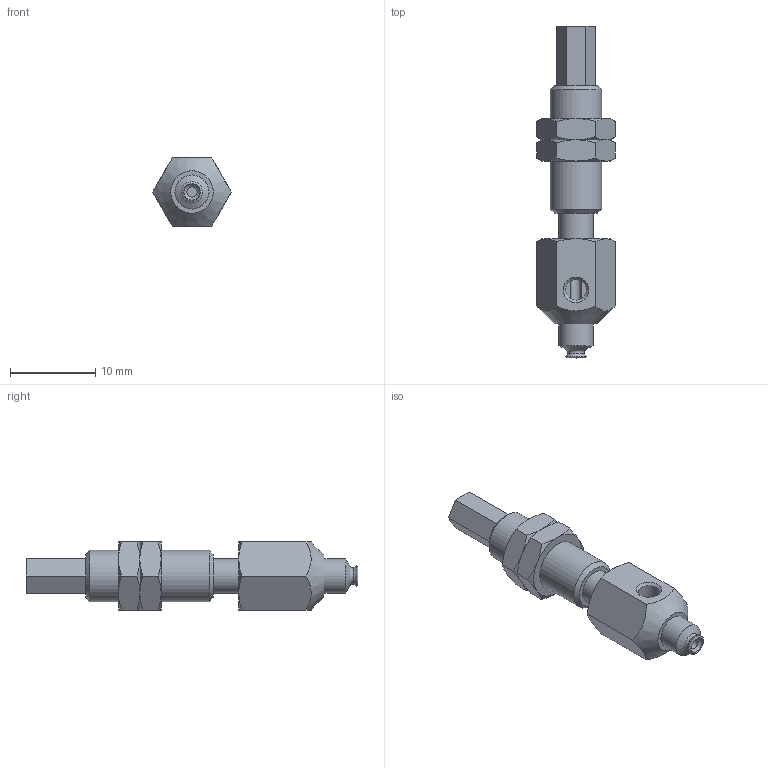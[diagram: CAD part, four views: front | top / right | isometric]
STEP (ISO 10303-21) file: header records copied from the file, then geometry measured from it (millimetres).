
FILE_DESCRIPTION(('STEP AP203'),'1');
FILE_NAME('.stp','2025-04-09T05:06:02',(' '),(' '),'Spatial InterOp 3D',' ',' ');
FILE_SCHEMA(('CONFIG_CONTROL_DESIGN'));
Length unit declared in the file: millimetre
Products named in the file (6): BNABPFYS-2A-3-※; CONNECTOR-2A-3; Nut-2A-3-s; NAPFTS-2A-3-FBODY; NAPFTS-2A-3-MBODY; BPFG-2A-※
Assembly tree (6 placements, depth 2):
  BNABPFYS-2A-3-※
    CONNECTOR-2A-3
    Nut-2A-3-s  x2
    NAPFTS-2A-3-FBODY
    NAPFTS-2A-3-MBODY
    BPFG-2A-※
Bounding box: 9.24 x 39 x 8 mm (x, y, z)
Volume: 1222.3 mm3; surface area: 1839.4 mm2
Topology: 6 solids, 6 shells, 126 faces, 269 edges, 161 vertices
Faces by surface type: plane 56, cone 47, cylinder 15, torus 7, bspline 1
Full cylindrical faces by diameter (mm): 1.2 x2, 2 x2, 2.459 x2, 3 x3, 4 x3, 5.188 x2, 6 x1
Entity records: 3075 total; most frequent: CARTESIAN_POINT 759, DIRECTION 422, ORIENTED_EDGE 356, AXIS2_PLACEMENT_3D 183, EDGE_CURVE 178, EDGE_LOOP 154, VERTEX_POINT 126, FACE_OUTER_BOUND 125
